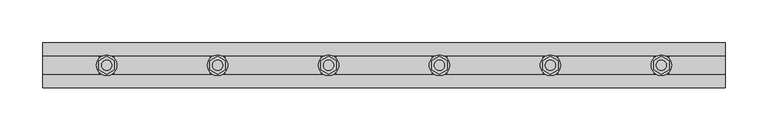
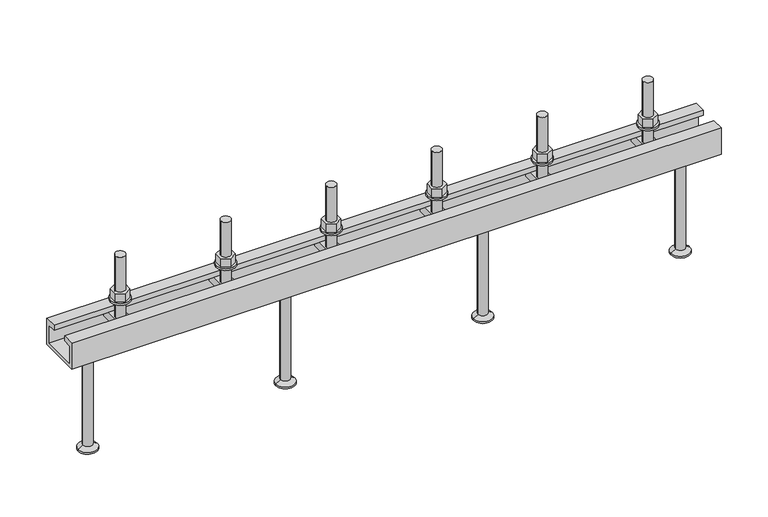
"""IFC4 building model written with IfcOpenShell, lengths in millimetres: fastener geometry, JTA-W JORDAHL® AnchorChannels : JTA-W L=800 mm."""

from ifc_helpers import new_model, si_unit, point, frame, frame_2d, origin, place, context, project, spatial, polyline, circle_curve, trimmed, segment, composite_curve, outline, extrude, source, transform, mapped, element, save
from ifc_brep_helpers import plane_surface, cylinder_surface, revolved_surface, advanced_brep


def fastener_aa8f82e4(model_context):
    return source(origin(), model_context, "Body", "SolidModel", [
        extrude(outline(polyline([(595.0, -10.3923048), (586.0, -5.1961524), (586.0, 5.1961524), (595.0, 10.3923048), (604.0, 5.1961524), (604.0, -5.1961524), (595.0, -10.3923048)]), holes=[composite_curve([segment(trimmed(circle_curve(frame_2d((595.0, 0.0)), 6.0), [point((589.0, 0.0))], [point((601.0, 0.0))], True, "CARTESIAN"), True, "CONTINUOUS"), segment(trimmed(circle_curve(frame_2d((595.0, 0.0)), 6.0), [point((601.0, 0.0))], [point((589.0, 0.0))], True, "CARTESIAN"), True, "CONTINUOUS")], self_intersect=False)]), frame((0.0, 0.0, 17.5), z_axis=(0.0, 0.0, 1.0), x_axis=(1.0, 0.0, 0.0)), (0.0, 0.0, 1.0), 10.8),
        extrude(outline(composite_curve([segment(trimmed(circle_curve(frame_2d((595.0, 0.0)), 12.0), [point((583.0, 0.0))], [point((607.0, 0.0))], False, "CARTESIAN"), True, "CONTINUOUS"), segment(trimmed(circle_curve(frame_2d((595.0, 0.0)), 12.0), [point((607.0, 0.0))], [point((583.0, 0.0))], False, "CARTESIAN"), True, "CONTINUOUS")], self_intersect=False), holes=[composite_curve([segment(trimmed(circle_curve(frame_2d((595.0, 0.0)), 6.5), [point((588.5, 0.0))], [point((601.5, 0.0))], True, "CARTESIAN"), True, "CONTINUOUS"), segment(trimmed(circle_curve(frame_2d((595.0, 0.0)), 6.5), [point((601.5, 0.0))], [point((588.5, 0.0))], True, "CARTESIAN"), True, "CONTINUOUS")], self_intersect=False)]), frame((0.0, 0.0, 15.0), z_axis=(0.0, 0.0, 1.0), x_axis=(1.0, 0.0, 0.0)), (0.0, 0.0, 1.0), 2.5),
        extrude(outline(polyline([(465.0, -10.3923048), (456.0, -5.1961524), (456.0, 5.1961524), (465.0, 10.3923048), (474.0, 5.1961524), (474.0, -5.1961524), (465.0, -10.3923048)]), holes=[composite_curve([segment(trimmed(circle_curve(frame_2d((465.0, 0.0)), 6.0), [point((459.0, 0.0))], [point((471.0, 0.0))], True, "CARTESIAN"), True, "CONTINUOUS"), segment(trimmed(circle_curve(frame_2d((465.0, 0.0)), 6.0), [point((471.0, 0.0))], [point((459.0, 0.0))], True, "CARTESIAN"), True, "CONTINUOUS")], self_intersect=False)]), frame((0.0, 0.0, 17.5), z_axis=(0.0, 0.0, 1.0), x_axis=(1.0, 0.0, 0.0)), (0.0, 0.0, 1.0), 10.8),
        extrude(outline(composite_curve([segment(trimmed(circle_curve(frame_2d((465.0, 0.0)), 12.0), [point((453.0, 0.0))], [point((477.0, 0.0))], False, "CARTESIAN"), True, "CONTINUOUS"), segment(trimmed(circle_curve(frame_2d((465.0, 0.0)), 12.0), [point((477.0, 0.0))], [point((453.0, 0.0))], False, "CARTESIAN"), True, "CONTINUOUS")], self_intersect=False), holes=[composite_curve([segment(trimmed(circle_curve(frame_2d((465.0, 0.0)), 6.5), [point((458.5, 0.0))], [point((471.5, 0.0))], True, "CARTESIAN"), True, "CONTINUOUS"), segment(trimmed(circle_curve(frame_2d((465.0, 0.0)), 6.5), [point((471.5, 0.0))], [point((458.5, 0.0))], True, "CARTESIAN"), True, "CONTINUOUS")], self_intersect=False)]), frame((0.0, 0.0, 15.0), z_axis=(0.0, 0.0, 1.0), x_axis=(1.0, 0.0, 0.0)), (0.0, 0.0, 1.0), 2.5),
        extrude(outline(polyline([(335.0, -10.3923048), (326.0, -5.1961524), (326.0, 5.1961524), (335.0, 10.3923048), (344.0, 5.1961524), (344.0, -5.1961524), (335.0, -10.3923048)]), holes=[composite_curve([segment(trimmed(circle_curve(frame_2d((335.0, 0.0)), 6.0), [point((329.0, 0.0))], [point((341.0, 0.0))], True, "CARTESIAN"), True, "CONTINUOUS"), segment(trimmed(circle_curve(frame_2d((335.0, 0.0)), 6.0), [point((341.0, 0.0))], [point((329.0, 0.0))], True, "CARTESIAN"), True, "CONTINUOUS")], self_intersect=False)]), frame((0.0, 0.0, 17.5), z_axis=(0.0, 0.0, 1.0), x_axis=(1.0, 0.0, 0.0)), (0.0, 0.0, 1.0), 10.8),
        extrude(outline(composite_curve([segment(trimmed(circle_curve(frame_2d((335.0, 0.0)), 12.0), [point((323.0, 0.0))], [point((347.0, 0.0))], False, "CARTESIAN"), True, "CONTINUOUS"), segment(trimmed(circle_curve(frame_2d((335.0, 0.0)), 12.0), [point((347.0, 0.0))], [point((323.0, 0.0))], False, "CARTESIAN"), True, "CONTINUOUS")], self_intersect=False), holes=[composite_curve([segment(trimmed(circle_curve(frame_2d((335.0, 0.0)), 6.5), [point((328.5, 0.0))], [point((341.5, 0.0))], True, "CARTESIAN"), True, "CONTINUOUS"), segment(trimmed(circle_curve(frame_2d((335.0, 0.0)), 6.5), [point((341.5, 0.0))], [point((328.5, 0.0))], True, "CARTESIAN"), True, "CONTINUOUS")], self_intersect=False)]), frame((0.0, 0.0, 15.0), z_axis=(0.0, 0.0, 1.0), x_axis=(1.0, 0.0, 0.0)), (0.0, 0.0, 1.0), 2.5),
        extrude(outline(polyline([(205.0, -10.3923048), (196.0, -5.1961524), (196.0, 5.1961524), (205.0, 10.3923048), (214.0, 5.1961524), (214.0, -5.1961524), (205.0, -10.3923048)]), holes=[composite_curve([segment(trimmed(circle_curve(frame_2d((205.0, 0.0)), 6.0), [point((199.0, 0.0))], [point((211.0, 0.0))], True, "CARTESIAN"), True, "CONTINUOUS"), segment(trimmed(circle_curve(frame_2d((205.0, 0.0)), 6.0), [point((211.0, 0.0))], [point((199.0, 0.0))], True, "CARTESIAN"), True, "CONTINUOUS")], self_intersect=False)]), frame((0.0, 0.0, 17.5), z_axis=(0.0, 0.0, 1.0), x_axis=(1.0, 0.0, 0.0)), (0.0, 0.0, 1.0), 10.8),
        extrude(outline(composite_curve([segment(trimmed(circle_curve(frame_2d((205.0, 0.0)), 12.0), [point((193.0, 0.0))], [point((217.0, 0.0))], False, "CARTESIAN"), True, "CONTINUOUS"), segment(trimmed(circle_curve(frame_2d((205.0, 0.0)), 12.0), [point((217.0, 0.0))], [point((193.0, 0.0))], False, "CARTESIAN"), True, "CONTINUOUS")], self_intersect=False), holes=[composite_curve([segment(trimmed(circle_curve(frame_2d((205.0, 0.0)), 6.5), [point((198.5, 0.0))], [point((211.5, 0.0))], True, "CARTESIAN"), True, "CONTINUOUS"), segment(trimmed(circle_curve(frame_2d((205.0, 0.0)), 6.5), [point((211.5, 0.0))], [point((198.5, 0.0))], True, "CARTESIAN"), True, "CONTINUOUS")], self_intersect=False)]), frame((0.0, 0.0, 15.0), z_axis=(0.0, 0.0, 1.0), x_axis=(1.0, 0.0, 0.0)), (0.0, 0.0, 1.0), 2.5),
        advanced_brep(
        [(603.5, -20.7, -6.5), (603.5, -20.7, -16.5), (603.5, 20.7, -16.5), (603.5, 20.7, -6.5), (586.5, -20.7, -6.5), (586.5, 20.7, -6.5), (586.5, 20.7, -16.5), (586.5, -20.7, -16.5), (601.0, 0.0, -6.5), (589.0, 0.0, -6.5), (589.0, 0.0, 73.5), (601.0, 0.0, 73.5)],
        [
            (0, 1),
            (1, 2),
            (2, 3),
            (3, 0),
            (4, 5),
            (5, 6),
            (6, 7),
            (7, 4),
            (3, 5),
            (4, 0),
            (8, 9, circle_curve(frame((595.0, 0.0, -6.5), z_axis=(0.0, 0.0, -1.0), x_axis=(1.0, 0.0, 0.0)), 6.0)),
            (9, 8, circle_curve(frame((595.0, 0.0, -6.5), z_axis=(0.0, 0.0, -1.0), x_axis=(1.0, 0.0, 0.0)), 6.0)),
            (2, 6),
            (1, 7),
            (10, 11, circle_curve(frame((595.0, 0.0, 73.5), z_axis=(0.0, 0.0, 1.0), x_axis=(1.0, 0.0, 0.0)), 6.0)),
            (11, 10, circle_curve(frame((595.0, 0.0, 73.5), z_axis=(0.0, 0.0, 1.0), x_axis=(1.0, 0.0, 0.0)), 6.0)),
            (11, 8),
            (9, 10),
        ],
        [
            plane_surface(frame((603.5, 20.7, -6.5), z_axis=(1.0, 0.0, 0.0), x_axis=(0.0, 1.0, 0.0))),
            plane_surface(frame((586.5, 20.7, -6.5), z_axis=(-1.0, 0.0, 0.0), x_axis=(0.0, -1.0, 0.0))),
            plane_surface(frame((603.5, -20.7, -6.5), z_axis=(0.0, 0.0, 1.0), x_axis=(-1.0, 0.0, 0.0))),
            plane_surface(frame((603.5, 20.7, -6.5), z_axis=(0.0, 1.0, 0.0), x_axis=(-1.0, 0.0, 0.0))),
            plane_surface(frame((603.5, 20.7, -16.5), z_axis=(0.0, 0.0, -1.0), x_axis=(-1.0, 0.0, 0.0))),
            plane_surface(frame((603.5, -20.7, -16.5), z_axis=(0.0, -1.0, 0.0), x_axis=(-1.0, 0.0, 0.0))),
            plane_surface(frame((601.0, 0.0, 73.5), z_axis=(0.0, 0.0, 1.0), x_axis=(0.0, -1.0, 0.0))),
            cylinder_surface(frame((595.0, 0.0, -6.5), z_axis=(0.0, 0.0, 1.0), x_axis=(1.0, 0.0, 0.0)), 6.0),
        ],
        [
            (0, [[1, 2, 3, 4]]),
            (1, [[5, 6, 7, 8]]),
            (2, [[9, -5, 10, -4], [11, 12]]),
            (3, [[13, -6, -9, -3]]),
            (4, [[14, -7, -13, -2]]),
            (5, [[-10, -8, -14, -1]]),
            (6, [[15, 16]]),
            (7, [[17, -12, 18, -16]]),
            (7, [[-18, -11, -17, -15]]),
        ],
    ),
        advanced_brep(
        [(473.5, -20.7, -6.5), (473.5, -20.7, -16.5), (473.5, 20.7, -16.5), (473.5, 20.7, -6.5), (456.5, -20.7, -6.5), (456.5, 20.7, -6.5), (456.5, 20.7, -16.5), (456.5, -20.7, -16.5), (471.0, 0.0, -6.5), (459.0, 0.0, -6.5), (459.0, 0.0, 73.5), (471.0, 0.0, 73.5)],
        [
            (0, 1),
            (1, 2),
            (2, 3),
            (3, 0),
            (4, 5),
            (5, 6),
            (6, 7),
            (7, 4),
            (3, 5),
            (4, 0),
            (8, 9, circle_curve(frame((465.0, 0.0, -6.5), z_axis=(0.0, 0.0, -1.0), x_axis=(1.0, 0.0, 0.0)), 6.0)),
            (9, 8, circle_curve(frame((465.0, 0.0, -6.5), z_axis=(0.0, 0.0, -1.0), x_axis=(1.0, 0.0, 0.0)), 6.0)),
            (2, 6),
            (1, 7),
            (10, 11, circle_curve(frame((465.0, 0.0, 73.5), z_axis=(0.0, 0.0, 1.0), x_axis=(1.0, 0.0, 0.0)), 6.0)),
            (11, 10, circle_curve(frame((465.0, 0.0, 73.5), z_axis=(0.0, 0.0, 1.0), x_axis=(1.0, 0.0, 0.0)), 6.0)),
            (11, 8),
            (9, 10),
        ],
        [
            plane_surface(frame((473.5, 20.7, -6.5), z_axis=(1.0, 0.0, 0.0), x_axis=(0.0, 1.0, 0.0))),
            plane_surface(frame((456.5, 20.7, -6.5), z_axis=(-1.0, 0.0, 0.0), x_axis=(0.0, -1.0, 0.0))),
            plane_surface(frame((473.5, -20.7, -6.5), z_axis=(0.0, 0.0, 1.0), x_axis=(-1.0, 0.0, 0.0))),
            plane_surface(frame((473.5, 20.7, -6.5), z_axis=(0.0, 1.0, 0.0), x_axis=(-1.0, 0.0, 0.0))),
            plane_surface(frame((473.5, 20.7, -16.5), z_axis=(0.0, 0.0, -1.0), x_axis=(-1.0, 0.0, 0.0))),
            plane_surface(frame((473.5, -20.7, -16.5), z_axis=(0.0, -1.0, 0.0), x_axis=(-1.0, 0.0, 0.0))),
            plane_surface(frame((471.0, 0.0, 73.5), z_axis=(0.0, 0.0, 1.0), x_axis=(0.0, -1.0, 0.0))),
            cylinder_surface(frame((465.0, 0.0, -6.5), z_axis=(0.0, 0.0, 1.0), x_axis=(1.0, 0.0, 0.0)), 6.0),
        ],
        [
            (0, [[1, 2, 3, 4]]),
            (1, [[5, 6, 7, 8]]),
            (2, [[9, -5, 10, -4], [11, 12]]),
            (3, [[13, -6, -9, -3]]),
            (4, [[14, -7, -13, -2]]),
            (5, [[-10, -8, -14, -1]]),
            (6, [[15, 16]]),
            (7, [[17, -12, 18, -16]]),
            (7, [[-18, -11, -17, -15]]),
        ],
    ),
        advanced_brep(
        [(343.5, -20.7, -6.5), (343.5, -20.7, -16.5), (343.5, 20.7, -16.5), (343.5, 20.7, -6.5), (326.5, -20.7, -6.5), (326.5, 20.7, -6.5), (326.5, 20.7, -16.5), (326.5, -20.7, -16.5), (341.0, 0.0, -6.5), (329.0, 0.0, -6.5), (329.0, 0.0, 73.5), (341.0, 0.0, 73.5)],
        [
            (0, 1),
            (1, 2),
            (2, 3),
            (3, 0),
            (4, 5),
            (5, 6),
            (6, 7),
            (7, 4),
            (3, 5),
            (4, 0),
            (8, 9, circle_curve(frame((335.0, 0.0, -6.5), z_axis=(0.0, 0.0, -1.0), x_axis=(1.0, 0.0, 0.0)), 6.0)),
            (9, 8, circle_curve(frame((335.0, 0.0, -6.5), z_axis=(0.0, 0.0, -1.0), x_axis=(1.0, 0.0, 0.0)), 6.0)),
            (2, 6),
            (1, 7),
            (10, 11, circle_curve(frame((335.0, 0.0, 73.5), z_axis=(0.0, 0.0, 1.0), x_axis=(1.0, 0.0, 0.0)), 6.0)),
            (11, 10, circle_curve(frame((335.0, 0.0, 73.5), z_axis=(0.0, 0.0, 1.0), x_axis=(1.0, 0.0, 0.0)), 6.0)),
            (11, 8),
            (9, 10),
        ],
        [
            plane_surface(frame((343.5, 20.7, -6.5), z_axis=(1.0, 0.0, 0.0), x_axis=(0.0, 1.0, 0.0))),
            plane_surface(frame((326.5, 20.7, -6.5), z_axis=(-1.0, 0.0, 0.0), x_axis=(0.0, -1.0, 0.0))),
            plane_surface(frame((343.5, -20.7, -6.5), z_axis=(0.0, 0.0, 1.0), x_axis=(-1.0, 0.0, 0.0))),
            plane_surface(frame((343.5, 20.7, -6.5), z_axis=(0.0, 1.0, 0.0), x_axis=(-1.0, 0.0, 0.0))),
            plane_surface(frame((343.5, 20.7, -16.5), z_axis=(0.0, 0.0, -1.0), x_axis=(-1.0, 0.0, 0.0))),
            plane_surface(frame((343.5, -20.7, -16.5), z_axis=(0.0, -1.0, 0.0), x_axis=(-1.0, 0.0, 0.0))),
            plane_surface(frame((341.0, 0.0, 73.5), z_axis=(0.0, 0.0, 1.0), x_axis=(0.0, -1.0, 0.0))),
            cylinder_surface(frame((335.0, 0.0, -6.5), z_axis=(0.0, 0.0, 1.0), x_axis=(1.0, 0.0, 0.0)), 6.0),
        ],
        [
            (0, [[1, 2, 3, 4]]),
            (1, [[5, 6, 7, 8]]),
            (2, [[9, -5, 10, -4], [11, 12]]),
            (3, [[13, -6, -9, -3]]),
            (4, [[14, -7, -13, -2]]),
            (5, [[-10, -8, -14, -1]]),
            (6, [[15, 16]]),
            (7, [[17, -12, 18, -16]]),
            (7, [[-18, -11, -17, -15]]),
        ],
    ),
        advanced_brep(
        [(213.5, -20.7, -6.5), (213.5, -20.7, -16.5), (213.5, 20.7, -16.5), (213.5, 20.7, -6.5), (196.5, -20.7, -6.5), (196.5, 20.7, -6.5), (196.5, 20.7, -16.5), (196.5, -20.7, -16.5), (211.0, 0.0, -6.5), (199.0, 0.0, -6.5), (199.0, 0.0, 73.5), (211.0, 0.0, 73.5)],
        [
            (0, 1),
            (1, 2),
            (2, 3),
            (3, 0),
            (4, 5),
            (5, 6),
            (6, 7),
            (7, 4),
            (3, 5),
            (4, 0),
            (8, 9, circle_curve(frame((205.0, 0.0, -6.5), z_axis=(0.0, 0.0, -1.0), x_axis=(1.0, 0.0, 0.0)), 6.0)),
            (9, 8, circle_curve(frame((205.0, 0.0, -6.5), z_axis=(0.0, 0.0, -1.0), x_axis=(1.0, 0.0, 0.0)), 6.0)),
            (2, 6),
            (1, 7),
            (10, 11, circle_curve(frame((205.0, 0.0, 73.5), z_axis=(0.0, 0.0, 1.0), x_axis=(1.0, 0.0, 0.0)), 6.0)),
            (11, 10, circle_curve(frame((205.0, 0.0, 73.5), z_axis=(0.0, 0.0, 1.0), x_axis=(1.0, 0.0, 0.0)), 6.0)),
            (11, 8),
            (9, 10),
        ],
        [
            plane_surface(frame((213.5, 20.7, -6.5), z_axis=(1.0, 0.0, 0.0), x_axis=(0.0, 1.0, 0.0))),
            plane_surface(frame((196.5, 20.7, -6.5), z_axis=(-1.0, 0.0, 0.0), x_axis=(0.0, -1.0, 0.0))),
            plane_surface(frame((213.5, -20.7, -6.5), z_axis=(0.0, 0.0, 1.0), x_axis=(-1.0, 0.0, 0.0))),
            plane_surface(frame((213.5, 20.7, -6.5), z_axis=(0.0, 1.0, 0.0), x_axis=(-1.0, 0.0, 0.0))),
            plane_surface(frame((213.5, 20.7, -16.5), z_axis=(0.0, 0.0, -1.0), x_axis=(-1.0, 0.0, 0.0))),
            plane_surface(frame((213.5, -20.7, -16.5), z_axis=(0.0, -1.0, 0.0), x_axis=(-1.0, 0.0, 0.0))),
            plane_surface(frame((211.0, 0.0, 73.5), z_axis=(0.0, 0.0, 1.0), x_axis=(0.0, -1.0, 0.0))),
            cylinder_surface(frame((205.0, 0.0, -6.5), z_axis=(0.0, 0.0, 1.0), x_axis=(1.0, 0.0, 0.0)), 6.0),
        ],
        [
            (0, [[1, 2, 3, 4]]),
            (1, [[5, 6, 7, 8]]),
            (2, [[9, -5, 10, -4], [11, 12]]),
            (3, [[13, -6, -9, -3]]),
            (4, [[14, -7, -13, -2]]),
            (5, [[-10, -8, -14, -1]]),
            (6, [[15, 16]]),
            (7, [[17, -12, 18, -16]]),
            (7, [[-18, -11, -17, -15]]),
        ],
    ),
        advanced_brep(
        [(521.6666667, 0.0, -34.0), (504.1666667, 0.0, -34.0), (539.1666667, 0.0, -34.0), (509.8666667, 0.0, -165.0), (521.6666667, 0.0, -165.0), (533.4666667, 0.0, -165.0), (509.8666667, 0.0, -163.0), (533.4666667, 0.0, -163.0), (515.8666667, 0.0, -159.5358984), (527.4666667, 0.0, -159.5358984), (515.8666667, 0.0, -37.0), (527.4666667, 0.0, -37.0)],
        [
            (0, 1),
            (1, 2, circle_curve(frame((521.6666667, 0.0, -34.0), z_axis=(0.0, 0.0, 1.0), x_axis=(1.0, 0.0, 0.0)), 17.5)),
            (2, 0),
            (2, 1, circle_curve(frame((521.6666667, 0.0, -34.0), z_axis=(0.0, 0.0, 1.0), x_axis=(1.0, 0.0, 0.0)), 17.5)),
            (3, 4),
            (4, 5),
            (5, 3, circle_curve(frame((521.6666667, 0.0, -165.0), z_axis=(0.0, 0.0, -1.0), x_axis=(1.0, 0.0, 0.0)), 11.8)),
            (3, 5, circle_curve(frame((521.6666667, 0.0, -165.0), z_axis=(0.0, 0.0, -1.0), x_axis=(1.0, 0.0, 0.0)), 11.8)),
            (6, 3),
            (5, 7),
            (7, 6, circle_curve(frame((521.6666667, 0.0, -163.0), z_axis=(0.0, 0.0, -1.0), x_axis=(1.0, 0.0, 0.0)), 11.8)),
            (6, 7, circle_curve(frame((521.6666667, 0.0, -163.0), z_axis=(0.0, 0.0, -1.0), x_axis=(1.0, 0.0, 0.0)), 11.8)),
            (8, 6),
            (7, 9),
            (9, 8, circle_curve(frame((521.6666667, 0.0, -159.5358984), z_axis=(0.0, 0.0, -1.0), x_axis=(1.0, 0.0, 0.0)), 5.8)),
            (8, 9, circle_curve(frame((521.6666667, 0.0, -159.5358984), z_axis=(0.0, 0.0, -1.0), x_axis=(1.0, 0.0, 0.0)), 5.8)),
            (10, 8),
            (9, 11),
            (11, 10, circle_curve(frame((521.6666667, 0.0, -37.0), z_axis=(0.0, 0.0, -1.0), x_axis=(1.0, 0.0, 0.0)), 5.8)),
            (10, 11, circle_curve(frame((521.6666667, 0.0, -37.0), z_axis=(0.0, 0.0, -1.0), x_axis=(1.0, 0.0, 0.0)), 5.8)),
            (1, 10),
            (11, 2),
        ],
        [
            plane_surface(frame((521.6666667, 0.0, -34.0), z_axis=(0.0, 0.0, 1.0), x_axis=(1.0, 0.0, 0.0))),
            plane_surface(frame((521.6666667, 0.0, -165.0), z_axis=(0.0, 0.0, -1.0), x_axis=(1.0, 0.0, 0.0))),
            cylinder_surface(frame((521.6666667, 0.0, 2345.3150031), z_axis=(0.0, 0.0, 1.0), x_axis=(1.0, 0.0, 0.0)), 11.8),
            revolved_surface(polyline([(533.4666667, 0.0, -163.0), (527.4666667, 0.0, -159.5358984)]), (521.6666667, 0.0, 2345.3150031), (0.0, 0.0, 1.0)),
            cylinder_surface(frame((521.6666667, 0.0, 2345.3150031), z_axis=(0.0, 0.0, 1.0), x_axis=(1.0, 0.0, 0.0)), 5.8),
            revolved_surface(polyline([(527.4666667, 0.0, -37.0), (539.1666667, 0.0, -34.0)]), (521.6666667, 0.0, 2345.3150031), (0.0, 0.0, 1.0)),
        ],
        [
            (0, [[1, 2, 3]]),
            (0, [[-3, 4, -1]]),
            (1, [[5, 6, 7]]),
            (1, [[-6, -5, 8]]),
            (2, [[9, -7, 10, 11]]),
            (2, [[-10, -8, -9, 12]]),
            (3, [[13, -11, 14, 15]]),
            (3, [[-14, -12, -13, 16]]),
            (4, [[17, -15, 18, 19]]),
            (4, [[-18, -16, -17, 20]]),
            (5, [[21, -19, 22, -2]]),
            (5, [[-22, -20, -21, -4]]),
        ],
    ),
        advanced_brep(
        [(278.3333333, 0.0, -34.0), (260.8333333, 0.0, -34.0), (295.8333333, 0.0, -34.0), (266.5333333, 0.0, -165.0), (278.3333333, 0.0, -165.0), (290.1333333, 0.0, -165.0), (266.5333333, 0.0, -163.0), (290.1333333, 0.0, -163.0), (272.5333333, 0.0, -159.5358984), (284.1333333, 0.0, -159.5358984), (272.5333333, 0.0, -37.0), (284.1333333, 0.0, -37.0)],
        [
            (0, 1),
            (1, 2, circle_curve(frame((278.3333333, 0.0, -34.0), z_axis=(0.0, 0.0, 1.0), x_axis=(1.0, 0.0, 0.0)), 17.5)),
            (2, 0),
            (2, 1, circle_curve(frame((278.3333333, 0.0, -34.0), z_axis=(0.0, 0.0, 1.0), x_axis=(1.0, 0.0, 0.0)), 17.5)),
            (3, 4),
            (4, 5),
            (5, 3, circle_curve(frame((278.3333333, 0.0, -165.0), z_axis=(0.0, 0.0, -1.0), x_axis=(1.0, 0.0, 0.0)), 11.8)),
            (3, 5, circle_curve(frame((278.3333333, 0.0, -165.0), z_axis=(0.0, 0.0, -1.0), x_axis=(1.0, 0.0, 0.0)), 11.8)),
            (6, 3),
            (5, 7),
            (7, 6, circle_curve(frame((278.3333333, 0.0, -163.0), z_axis=(0.0, 0.0, -1.0), x_axis=(1.0, 0.0, 0.0)), 11.8)),
            (6, 7, circle_curve(frame((278.3333333, 0.0, -163.0), z_axis=(0.0, 0.0, -1.0), x_axis=(1.0, 0.0, 0.0)), 11.8)),
            (8, 6),
            (7, 9),
            (9, 8, circle_curve(frame((278.3333333, 0.0, -159.5358984), z_axis=(0.0, 0.0, -1.0), x_axis=(1.0, 0.0, 0.0)), 5.8)),
            (8, 9, circle_curve(frame((278.3333333, 0.0, -159.5358984), z_axis=(0.0, 0.0, -1.0), x_axis=(1.0, 0.0, 0.0)), 5.8)),
            (10, 8),
            (9, 11),
            (11, 10, circle_curve(frame((278.3333333, 0.0, -37.0), z_axis=(0.0, 0.0, -1.0), x_axis=(1.0, 0.0, 0.0)), 5.8)),
            (10, 11, circle_curve(frame((278.3333333, 0.0, -37.0), z_axis=(0.0, 0.0, -1.0), x_axis=(1.0, 0.0, 0.0)), 5.8)),
            (1, 10),
            (11, 2),
        ],
        [
            plane_surface(frame((278.3333333, 0.0, -34.0), z_axis=(0.0, 0.0, 1.0), x_axis=(1.0, 0.0, 0.0))),
            plane_surface(frame((278.3333333, 0.0, -165.0), z_axis=(0.0, 0.0, -1.0), x_axis=(1.0, 0.0, 0.0))),
            cylinder_surface(frame((278.3333333, 0.0, 2345.3150031), z_axis=(0.0, 0.0, 1.0), x_axis=(1.0, 0.0, 0.0)), 11.8),
            revolved_surface(polyline([(290.1333333, 0.0, -163.0), (284.1333333, 0.0, -159.5358984)]), (278.3333333, 0.0, 2345.3150031), (0.0, 0.0, 1.0)),
            cylinder_surface(frame((278.3333333, 0.0, 2345.3150031), z_axis=(0.0, 0.0, 1.0), x_axis=(1.0, 0.0, 0.0)), 5.8),
            revolved_surface(polyline([(284.1333333, 0.0, -37.0), (295.8333333, 0.0, -34.0)]), (278.3333333, 0.0, 2345.3150031), (0.0, 0.0, 1.0)),
        ],
        [
            (0, [[1, 2, 3]]),
            (0, [[-3, 4, -1]]),
            (1, [[5, 6, 7]]),
            (1, [[-6, -5, 8]]),
            (2, [[9, -7, 10, 11]]),
            (2, [[-10, -8, -9, 12]]),
            (3, [[13, -11, 14, 15]]),
            (3, [[-14, -12, -13, 16]]),
            (4, [[17, -15, 18, 19]]),
            (4, [[-18, -16, -17, 20]]),
            (5, [[21, -19, 22, -2]]),
            (5, [[-22, -20, -21, -4]]),
        ],
    ),
        extrude(outline(polyline([(725.0, -10.3923048), (716.0, -5.1961524), (716.0, 5.1961524), (725.0, 10.3923048), (734.0, 5.1961524), (734.0, -5.1961524), (725.0, -10.3923048)]), holes=[composite_curve([segment(trimmed(circle_curve(frame_2d((725.0, 0.0)), 6.0), [point((719.0, 0.0))], [point((731.0, 0.0))], True, "CARTESIAN"), True, "CONTINUOUS"), segment(trimmed(circle_curve(frame_2d((725.0, 0.0)), 6.0), [point((731.0, 0.0))], [point((719.0, 0.0))], True, "CARTESIAN"), True, "CONTINUOUS")], self_intersect=False)]), frame((0.0, 0.0, 17.5), z_axis=(0.0, 0.0, 1.0), x_axis=(1.0, 0.0, 0.0)), (0.0, 0.0, 1.0), 10.8),
        extrude(outline(composite_curve([segment(trimmed(circle_curve(frame_2d((725.0, 0.0)), 12.0), [point((713.0, 0.0))], [point((737.0, 0.0))], False, "CARTESIAN"), True, "CONTINUOUS"), segment(trimmed(circle_curve(frame_2d((725.0, 0.0)), 12.0), [point((737.0, 0.0))], [point((713.0, 0.0))], False, "CARTESIAN"), True, "CONTINUOUS")], self_intersect=False), holes=[composite_curve([segment(trimmed(circle_curve(frame_2d((725.0, 0.0)), 6.5), [point((718.5, 0.0))], [point((731.5, 0.0))], True, "CARTESIAN"), True, "CONTINUOUS"), segment(trimmed(circle_curve(frame_2d((725.0, 0.0)), 6.5), [point((731.5, 0.0))], [point((718.5, 0.0))], True, "CARTESIAN"), True, "CONTINUOUS")], self_intersect=False)]), frame((0.0, 0.0, 15.0), z_axis=(0.0, 0.0, 1.0), x_axis=(1.0, 0.0, 0.0)), (0.0, 0.0, 1.0), 2.5),
        extrude(outline(polyline([(75.0, -10.3923048), (66.0, -5.1961524), (66.0, 5.1961524), (75.0, 10.3923048), (84.0, 5.1961524), (84.0, -5.1961524), (75.0, -10.3923048)]), holes=[composite_curve([segment(trimmed(circle_curve(frame_2d((75.0, 0.0)), 6.0), [point((69.0, 0.0))], [point((81.0, 0.0))], True, "CARTESIAN"), True, "CONTINUOUS"), segment(trimmed(circle_curve(frame_2d((75.0, 0.0)), 6.0), [point((81.0, 0.0))], [point((69.0, 0.0))], True, "CARTESIAN"), True, "CONTINUOUS")], self_intersect=False)]), frame((0.0, 0.0, 17.5), z_axis=(0.0, 0.0, 1.0), x_axis=(1.0, 0.0, 0.0)), (0.0, 0.0, 1.0), 10.8),
        extrude(outline(composite_curve([segment(trimmed(circle_curve(frame_2d((75.0, 0.0)), 12.0), [point((63.0, 0.0))], [point((87.0, 0.0))], False, "CARTESIAN"), True, "CONTINUOUS"), segment(trimmed(circle_curve(frame_2d((75.0, 0.0)), 12.0), [point((87.0, 0.0))], [point((63.0, 0.0))], False, "CARTESIAN"), True, "CONTINUOUS")], self_intersect=False), holes=[composite_curve([segment(trimmed(circle_curve(frame_2d((75.0, 0.0)), 6.5), [point((68.5, 0.0))], [point((81.5, 0.0))], True, "CARTESIAN"), True, "CONTINUOUS"), segment(trimmed(circle_curve(frame_2d((75.0, 0.0)), 6.5), [point((81.5, 0.0))], [point((68.5, 0.0))], True, "CARTESIAN"), True, "CONTINUOUS")], self_intersect=False)]), frame((0.0, 0.0, 15.0), z_axis=(0.0, 0.0, 1.0), x_axis=(1.0, 0.0, 0.0)), (0.0, 0.0, 1.0), 2.5),
        advanced_brep(
        [(733.5, -20.7, -6.5), (733.5, -20.7, -16.5), (733.5, 20.7, -16.5), (733.5, 20.7, -6.5), (716.5, -20.7, -6.5), (716.5, 20.7, -6.5), (716.5, 20.7, -16.5), (716.5, -20.7, -16.5), (731.0, 0.0, -6.5), (719.0, 0.0, -6.5), (719.0, 0.0, 73.5), (731.0, 0.0, 73.5)],
        [
            (0, 1),
            (1, 2),
            (2, 3),
            (3, 0),
            (4, 5),
            (5, 6),
            (6, 7),
            (7, 4),
            (3, 5),
            (4, 0),
            (8, 9, circle_curve(frame((725.0, 0.0, -6.5), z_axis=(0.0, 0.0, -1.0), x_axis=(1.0, 0.0, 0.0)), 6.0)),
            (9, 8, circle_curve(frame((725.0, 0.0, -6.5), z_axis=(0.0, 0.0, -1.0), x_axis=(1.0, 0.0, 0.0)), 6.0)),
            (2, 6),
            (1, 7),
            (10, 11, circle_curve(frame((725.0, 0.0, 73.5), z_axis=(0.0, 0.0, 1.0), x_axis=(1.0, 0.0, 0.0)), 6.0)),
            (11, 10, circle_curve(frame((725.0, 0.0, 73.5), z_axis=(0.0, 0.0, 1.0), x_axis=(1.0, 0.0, 0.0)), 6.0)),
            (11, 8),
            (9, 10),
        ],
        [
            plane_surface(frame((733.5, 20.7, -6.5), z_axis=(1.0, 0.0, 0.0), x_axis=(0.0, 1.0, 0.0))),
            plane_surface(frame((716.5, 20.7, -6.5), z_axis=(-1.0, 0.0, 0.0), x_axis=(0.0, -1.0, 0.0))),
            plane_surface(frame((733.5, -20.7, -6.5), z_axis=(0.0, 0.0, 1.0), x_axis=(-1.0, 0.0, 0.0))),
            plane_surface(frame((733.5, 20.7, -6.5), z_axis=(0.0, 1.0, 0.0), x_axis=(-1.0, 0.0, 0.0))),
            plane_surface(frame((733.5, 20.7, -16.5), z_axis=(0.0, 0.0, -1.0), x_axis=(-1.0, 0.0, 0.0))),
            plane_surface(frame((733.5, -20.7, -16.5), z_axis=(0.0, -1.0, 0.0), x_axis=(-1.0, 0.0, 0.0))),
            plane_surface(frame((731.0, 0.0, 73.5), z_axis=(0.0, 0.0, 1.0), x_axis=(0.0, -1.0, 0.0))),
            cylinder_surface(frame((725.0, 0.0, -6.5), z_axis=(0.0, 0.0, 1.0), x_axis=(1.0, 0.0, 0.0)), 6.0),
        ],
        [
            (0, [[1, 2, 3, 4]]),
            (1, [[5, 6, 7, 8]]),
            (2, [[9, -5, 10, -4], [11, 12]]),
            (3, [[13, -6, -9, -3]]),
            (4, [[14, -7, -13, -2]]),
            (5, [[-10, -8, -14, -1]]),
            (6, [[15, 16]]),
            (7, [[17, -12, 18, -16]]),
            (7, [[-18, -11, -17, -15]]),
        ],
    ),
        advanced_brep(
        [(83.5, -20.7, -6.5), (83.5, -20.7, -16.5), (83.5, 20.7, -16.5), (83.5, 20.7, -6.5), (66.5, -20.7, -6.5), (66.5, 20.7, -6.5), (66.5, 20.7, -16.5), (66.5, -20.7, -16.5), (81.0, 0.0, -6.5), (69.0, 0.0, -6.5), (69.0, 0.0, 73.5), (81.0, 0.0, 73.5)],
        [
            (0, 1),
            (1, 2),
            (2, 3),
            (3, 0),
            (4, 5),
            (5, 6),
            (6, 7),
            (7, 4),
            (3, 5),
            (4, 0),
            (8, 9, circle_curve(frame((75.0, 0.0, -6.5), z_axis=(0.0, 0.0, -1.0), x_axis=(1.0, 0.0, 0.0)), 6.0)),
            (9, 8, circle_curve(frame((75.0, 0.0, -6.5), z_axis=(0.0, 0.0, -1.0), x_axis=(1.0, 0.0, 0.0)), 6.0)),
            (2, 6),
            (1, 7),
            (10, 11, circle_curve(frame((75.0, 0.0, 73.5), z_axis=(0.0, 0.0, 1.0), x_axis=(1.0, 0.0, 0.0)), 6.0)),
            (11, 10, circle_curve(frame((75.0, 0.0, 73.5), z_axis=(0.0, 0.0, 1.0), x_axis=(1.0, 0.0, 0.0)), 6.0)),
            (11, 8),
            (9, 10),
        ],
        [
            plane_surface(frame((83.5, 20.7, -6.5), z_axis=(1.0, 0.0, 0.0), x_axis=(0.0, 1.0, 0.0))),
            plane_surface(frame((66.5, 20.7, -6.5), z_axis=(-1.0, 0.0, 0.0), x_axis=(0.0, -1.0, 0.0))),
            plane_surface(frame((83.5, -20.7, -6.5), z_axis=(0.0, 0.0, 1.0), x_axis=(-1.0, 0.0, 0.0))),
            plane_surface(frame((83.5, 20.7, -6.5), z_axis=(0.0, 1.0, 0.0), x_axis=(-1.0, 0.0, 0.0))),
            plane_surface(frame((83.5, 20.7, -16.5), z_axis=(0.0, 0.0, -1.0), x_axis=(-1.0, 0.0, 0.0))),
            plane_surface(frame((83.5, -20.7, -16.5), z_axis=(0.0, -1.0, 0.0), x_axis=(-1.0, 0.0, 0.0))),
            plane_surface(frame((81.0, 0.0, 73.5), z_axis=(0.0, 0.0, 1.0), x_axis=(0.0, -1.0, 0.0))),
            cylinder_surface(frame((75.0, 0.0, -6.5), z_axis=(0.0, 0.0, 1.0), x_axis=(1.0, 0.0, 0.0)), 6.0),
        ],
        [
            (0, [[1, 2, 3, 4]]),
            (1, [[5, 6, 7, 8]]),
            (2, [[9, -5, 10, -4], [11, 12]]),
            (3, [[13, -6, -9, -3]]),
            (4, [[14, -7, -13, -2]]),
            (5, [[-10, -8, -14, -1]]),
            (6, [[15, 16]]),
            (7, [[17, -12, 18, -16]]),
            (7, [[-18, -11, -17, -15]]),
        ],
    ),
        advanced_brep(
        [(765.0, 0.0, -34.0), (747.5, 0.0, -34.0), (782.5, 0.0, -34.0), (753.2, 0.0, -165.0), (765.0, 0.0, -165.0), (776.8, 0.0, -165.0), (753.2, 0.0, -163.0), (776.8, 0.0, -163.0), (759.2, 0.0, -159.5358984), (770.8, 0.0, -159.5358984), (759.2, 0.0, -37.0), (770.8, 0.0, -37.0)],
        [
            (0, 1),
            (1, 2, circle_curve(frame((765.0, 0.0, -34.0), z_axis=(0.0, 0.0, 1.0), x_axis=(1.0, 0.0, 0.0)), 17.5)),
            (2, 0),
            (2, 1, circle_curve(frame((765.0, 0.0, -34.0), z_axis=(0.0, 0.0, 1.0), x_axis=(1.0, 0.0, 0.0)), 17.5)),
            (3, 4),
            (4, 5),
            (5, 3, circle_curve(frame((765.0, 0.0, -165.0), z_axis=(0.0, 0.0, -1.0), x_axis=(1.0, 0.0, 0.0)), 11.8)),
            (3, 5, circle_curve(frame((765.0, 0.0, -165.0), z_axis=(0.0, 0.0, -1.0), x_axis=(1.0, 0.0, 0.0)), 11.8)),
            (6, 3),
            (5, 7),
            (7, 6, circle_curve(frame((765.0, 0.0, -163.0), z_axis=(0.0, 0.0, -1.0), x_axis=(1.0, 0.0, 0.0)), 11.8)),
            (6, 7, circle_curve(frame((765.0, 0.0, -163.0), z_axis=(0.0, 0.0, -1.0), x_axis=(1.0, 0.0, 0.0)), 11.8)),
            (8, 6),
            (7, 9),
            (9, 8, circle_curve(frame((765.0, 0.0, -159.5358984), z_axis=(0.0, 0.0, -1.0), x_axis=(1.0, 0.0, 0.0)), 5.8)),
            (8, 9, circle_curve(frame((765.0, 0.0, -159.5358984), z_axis=(0.0, 0.0, -1.0), x_axis=(1.0, 0.0, 0.0)), 5.8)),
            (10, 8),
            (9, 11),
            (11, 10, circle_curve(frame((765.0, 0.0, -37.0), z_axis=(0.0, 0.0, -1.0), x_axis=(1.0, 0.0, 0.0)), 5.8)),
            (10, 11, circle_curve(frame((765.0, 0.0, -37.0), z_axis=(0.0, 0.0, -1.0), x_axis=(1.0, 0.0, 0.0)), 5.8)),
            (1, 10),
            (11, 2),
        ],
        [
            plane_surface(frame((765.0, 0.0, -34.0), z_axis=(0.0, 0.0, 1.0), x_axis=(1.0, 0.0, 0.0))),
            plane_surface(frame((765.0, 0.0, -165.0), z_axis=(0.0, 0.0, -1.0), x_axis=(1.0, 0.0, 0.0))),
            cylinder_surface(frame((765.0, 0.0, 2345.3150031), z_axis=(0.0, 0.0, 1.0), x_axis=(1.0, 0.0, 0.0)), 11.8),
            revolved_surface(polyline([(776.8, 0.0, -163.0), (770.8, 0.0, -159.5358984)]), (765.0, 0.0, 2345.3150031), (0.0, 0.0, 1.0)),
            cylinder_surface(frame((765.0, 0.0, 2345.3150031), z_axis=(0.0, 0.0, 1.0), x_axis=(1.0, 0.0, 0.0)), 5.8),
            revolved_surface(polyline([(770.8, 0.0, -37.0), (782.5, 0.0, -34.0)]), (765.0, 0.0, 2345.3150031), (0.0, 0.0, 1.0)),
        ],
        [
            (0, [[1, 2, 3]]),
            (0, [[-3, 4, -1]]),
            (1, [[5, 6, 7]]),
            (1, [[-6, -5, 8]]),
            (2, [[9, -7, 10, 11]]),
            (2, [[-10, -8, -9, 12]]),
            (3, [[13, -11, 14, 15]]),
            (3, [[-14, -12, -13, 16]]),
            (4, [[17, -15, 18, 19]]),
            (4, [[-18, -16, -17, 20]]),
            (5, [[21, -19, 22, -2]]),
            (5, [[-22, -20, -21, -4]]),
        ],
    ),
        advanced_brep(
        [(35.0, 0.0, -34.0), (17.5, 0.0, -34.0), (52.5, 0.0, -34.0), (23.2, 0.0, -165.0), (35.0, 0.0, -165.0), (46.8, 0.0, -165.0), (23.2, 0.0, -163.0), (46.8, 0.0, -163.0), (29.2, 0.0, -159.5358984), (40.8, 0.0, -159.5358984), (29.2, 0.0, -37.0), (40.8, 0.0, -37.0)],
        [
            (0, 1),
            (1, 2, circle_curve(frame((35.0, 0.0, -34.0), z_axis=(0.0, 0.0, 1.0), x_axis=(1.0, 0.0, 0.0)), 17.5)),
            (2, 0),
            (2, 1, circle_curve(frame((35.0, 0.0, -34.0), z_axis=(0.0, 0.0, 1.0), x_axis=(1.0, 0.0, 0.0)), 17.5)),
            (3, 4),
            (4, 5),
            (5, 3, circle_curve(frame((35.0, 0.0, -165.0), z_axis=(0.0, 0.0, -1.0), x_axis=(1.0, 0.0, 0.0)), 11.8)),
            (3, 5, circle_curve(frame((35.0, 0.0, -165.0), z_axis=(0.0, 0.0, -1.0), x_axis=(1.0, 0.0, 0.0)), 11.8)),
            (6, 3),
            (5, 7),
            (7, 6, circle_curve(frame((35.0, 0.0, -163.0), z_axis=(0.0, 0.0, -1.0), x_axis=(1.0, 0.0, 0.0)), 11.8)),
            (6, 7, circle_curve(frame((35.0, 0.0, -163.0), z_axis=(0.0, 0.0, -1.0), x_axis=(1.0, 0.0, 0.0)), 11.8)),
            (8, 6),
            (7, 9),
            (9, 8, circle_curve(frame((35.0, 0.0, -159.5358984), z_axis=(0.0, 0.0, -1.0), x_axis=(1.0, 0.0, 0.0)), 5.8)),
            (8, 9, circle_curve(frame((35.0, 0.0, -159.5358984), z_axis=(0.0, 0.0, -1.0), x_axis=(1.0, 0.0, 0.0)), 5.8)),
            (10, 8),
            (9, 11),
            (11, 10, circle_curve(frame((35.0, 0.0, -37.0), z_axis=(0.0, 0.0, -1.0), x_axis=(1.0, 0.0, 0.0)), 5.8)),
            (10, 11, circle_curve(frame((35.0, 0.0, -37.0), z_axis=(0.0, 0.0, -1.0), x_axis=(1.0, 0.0, 0.0)), 5.8)),
            (1, 10),
            (11, 2),
        ],
        [
            plane_surface(frame((35.0, 0.0, -34.0), z_axis=(0.0, 0.0, 1.0), x_axis=(1.0, 0.0, 0.0))),
            plane_surface(frame((35.0, 0.0, -165.0), z_axis=(0.0, 0.0, -1.0), x_axis=(1.0, 0.0, 0.0))),
            cylinder_surface(frame((35.0, 0.0, 2345.3150031), z_axis=(0.0, 0.0, 1.0), x_axis=(1.0, 0.0, 0.0)), 11.8),
            revolved_surface(polyline([(46.8, 0.0, -163.0), (40.8, 0.0, -159.5358984)]), (35.0, 0.0, 2345.3150031), (0.0, 0.0, 1.0)),
            cylinder_surface(frame((35.0, 0.0, 2345.3150031), z_axis=(0.0, 0.0, 1.0), x_axis=(1.0, 0.0, 0.0)), 5.8),
            revolved_surface(polyline([(40.8, 0.0, -37.0), (52.5, 0.0, -34.0)]), (35.0, 0.0, 2345.3150031), (0.0, 0.0, 1.0)),
        ],
        [
            (0, [[1, 2, 3]]),
            (0, [[-3, 4, -1]]),
            (1, [[5, 6, 7]]),
            (1, [[-6, -5, 8]]),
            (2, [[9, -7, 10, 11]]),
            (2, [[-10, -8, -9, 12]]),
            (3, [[13, -11, 14, 15]]),
            (3, [[-14, -12, -13, 16]]),
            (4, [[17, -15, 18, 19]]),
            (4, [[-18, -16, -17, 20]]),
            (5, [[21, -19, 22, -2]]),
            (5, [[-22, -20, -21, -4]]),
        ],
    ),
        extrude(outline(polyline([(-26.5, 0.0), (-11.25, 0.0), (-11.25, -6.5), (-22.5, -6.5), (-22.5, -30.0), (22.5, -30.0), (22.5, -6.5), (11.25, -6.5), (11.25, 0.0), (26.5, 0.0), (26.5, -34.0), (-26.5, -34.0), (-26.5, 0.0)])), frame((0.0, 0.0, 0.0), z_axis=(1.0, 0.0, 0.0), x_axis=(0.0, 1.0, 0.0)), (0.0, 0.0, 1.0), 800.0),
    ])


if __name__ == "__main__":
    model = new_model("IFC4")
    model_context = context("Model", 3, world=origin())
    ifc_project = project(units=[si_unit("LENGTHUNIT", "METRE", prefix="MILLI")], contexts=[model_context])
    site = spatial("IfcSite", under=ifc_project)
    building = spatial("IfcBuilding", under=site)
    placement = place(None, origin())
    fastener_shape = fastener_aa8f82e4(model_context)
    element("IfcFastener", 1, ObjectType="JTA-W JORDAHL® AnchorChannels : JTA-W L=800 mm", at=placement, inside=building, context=model_context, shape_type="MappedRepresentation", body=[
        mapped(fastener_shape, transform((0.0, 0.0, 0.0), x_axis=(1.0, 0.0, 0.0), y_axis=(0.0, 1.0, 0.0), z_axis=(0.0, 0.0, 1.0))),
    ])
    save(model, "model.ifc")
